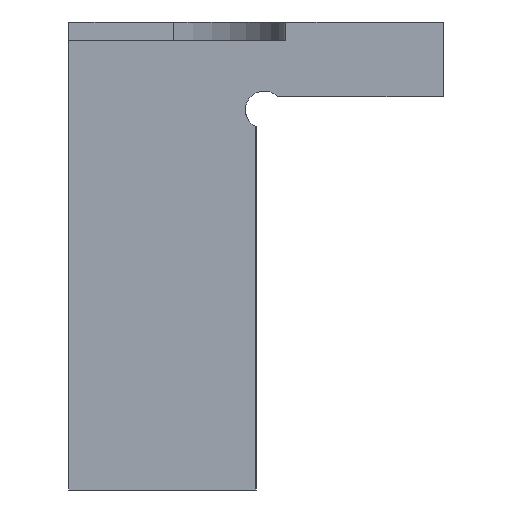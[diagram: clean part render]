
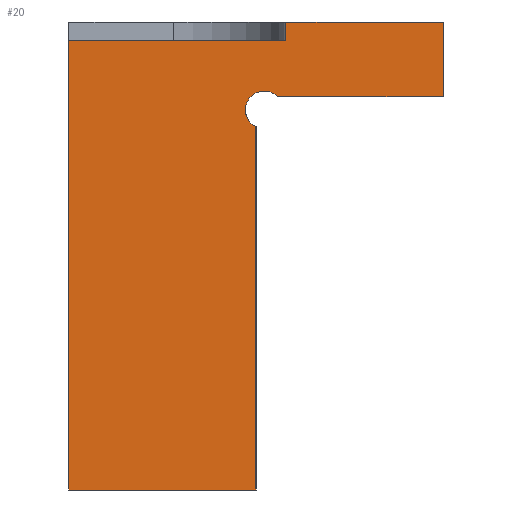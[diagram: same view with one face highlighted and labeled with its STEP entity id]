
A CAD part, front view. The second image highlights one B-rep face of the part: STEP entity #20.
In plain terms, the highlighted planar face has unit normal (0, -1, 0).
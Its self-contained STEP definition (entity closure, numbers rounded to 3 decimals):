
#11 = CARTESIAN_POINT ( 'NONE',  ( -29.9, -21.9, 0. ) ) ;
#14 = VECTOR ( 'NONE', #122, 1000. ) ;
#20 = ADVANCED_FACE ( 'NONE', ( #479 ), #581, .T. ) ;
#25 = CARTESIAN_POINT ( 'NONE',  ( -29.1, -21.9, -0.5 ) ) ;
#35 = VECTOR ( 'NONE', #650, 1000. ) ;
#51 = DIRECTION ( 'NONE',  ( 0., 0., 1. ) ) ;
#52 = EDGE_CURVE ( 'NONE', #168, #421, #645, .T. ) ;
#61 = ORIENTED_EDGE ( 'NONE', *, *, #689, .T. ) ;
#63 = ORIENTED_EDGE ( 'NONE', *, *, #647, .F. ) ;
#72 = ORIENTED_EDGE ( 'NONE', *, *, #103, .F. ) ;
#80 = VECTOR ( 'NONE', #489, 1000. ) ;
#103 = EDGE_CURVE ( 'NONE', #193, #168, #905, .T. ) ;
#122 = DIRECTION ( 'NONE',  ( 1., 0., 0. ) ) ;
#127 = LINE ( 'NONE', #281, #301 ) ;
#130 = VERTEX_POINT ( 'NONE', #978 ) ;
#147 = CARTESIAN_POINT ( 'NONE',  ( -29.1, -21.9, 0. ) ) ;
#155 = CARTESIAN_POINT ( 'NONE',  ( -29.9, -21.9, -2.797 ) ) ;
#168 = VERTEX_POINT ( 'NONE', #436 ) ;
#182 = ORIENTED_EDGE ( 'NONE', *, *, #220, .F. ) ;
#193 = VERTEX_POINT ( 'NONE', #596 ) ;
#205 = EDGE_CURVE ( 'NONE', #669, #940, #599, .T. ) ;
#207 = DIRECTION ( 'NONE',  ( 0., -1., 0. ) ) ;
#220 = EDGE_CURVE ( 'NONE', #736, #356, #821, .T. ) ;
#227 = ORIENTED_EDGE ( 'NONE', *, *, #582, .F. ) ;
#235 = LINE ( 'NONE', #697, #721 ) ;
#246 = EDGE_LOOP ( 'NONE', ( #227, #898, #72, #362, #957, #182, #63, #61, #287 ) ) ;
#260 = VECTOR ( 'NONE', #51, 1000. ) ;
#281 = CARTESIAN_POINT ( 'NONE',  ( -29.1, -21.9, -0.5 ) ) ;
#287 = ORIENTED_EDGE ( 'NONE', *, *, #205, .F. ) ;
#301 = VECTOR ( 'NONE', #435, 1000. ) ;
#309 = LINE ( 'NONE', #773, #464 ) ;
#313 = DIRECTION ( 'NONE',  ( -1., 0., 0. ) ) ;
#326 = LINE ( 'NONE', #11, #35 ) ;
#345 = DIRECTION ( 'NONE',  ( 0., -1., 0. ) ) ;
#349 = VERTEX_POINT ( 'NONE', #844 ) ;
#356 = VERTEX_POINT ( 'NONE', #155 ) ;
#362 = ORIENTED_EDGE ( 'NONE', *, *, #956, .F. ) ;
#366 = AXIS2_PLACEMENT_3D ( 'NONE', #370, #207, #513 ) ;
#370 = CARTESIAN_POINT ( 'NONE',  ( -29.684, -21.9, -2.346 ) ) ;
#421 = VERTEX_POINT ( 'NONE', #25 ) ;
#435 = DIRECTION ( 'NONE',  ( 0., 0., 1. ) ) ;
#436 = CARTESIAN_POINT ( 'NONE',  ( -34.9, -21.9, -0.5 ) ) ;
#450 = LINE ( 'NONE', #616, #890 ) ;
#464 = VECTOR ( 'NONE', #854, 1000. ) ;
#475 = CARTESIAN_POINT ( 'NONE',  ( -24.9, -21.9, 0. ) ) ;
#479 = FACE_OUTER_BOUND ( 'NONE', #246, .T. ) ;
#489 = DIRECTION ( 'NONE',  ( 1., 0., 0. ) ) ;
#510 = CARTESIAN_POINT ( 'NONE',  ( -24.9, -21.9, 0. ) ) ;
#513 = DIRECTION ( 'NONE',  ( 1., 0., 0. ) ) ;
#581 = PLANE ( 'NONE',  #694 ) ;
#582 = EDGE_CURVE ( 'NONE', #421, #669, #127, .T. ) ;
#596 = CARTESIAN_POINT ( 'NONE',  ( -34.9, -21.9, -12.5 ) ) ;
#599 = LINE ( 'NONE', #510, #14 ) ;
#616 = CARTESIAN_POINT ( 'NONE',  ( 0., -21.9, -2. ) ) ;
#645 = LINE ( 'NONE', #720, #80 ) ;
#647 = EDGE_CURVE ( 'NONE', #130, #736, #450, .T. ) ;
#650 = DIRECTION ( 'NONE',  ( 0., 0., -1. ) ) ;
#669 = VERTEX_POINT ( 'NONE', #147 ) ;
#689 = EDGE_CURVE ( 'NONE', #130, #940, #309, .T. ) ;
#694 = AXIS2_PLACEMENT_3D ( 'NONE', #867, #345, #805 ) ;
#697 = CARTESIAN_POINT ( 'NONE',  ( -29.9, -21.9, -12.5 ) ) ;
#720 = CARTESIAN_POINT ( 'NONE',  ( -29.1, -21.9, -0.5 ) ) ;
#721 = VECTOR ( 'NONE', #782, 1000. ) ;
#736 = VERTEX_POINT ( 'NONE', #923 ) ;
#773 = CARTESIAN_POINT ( 'NONE',  ( -24.9, -21.9, -10. ) ) ;
#782 = DIRECTION ( 'NONE',  ( -1., 0., 0. ) ) ;
#805 = DIRECTION ( 'NONE',  ( 1., 0., 0. ) ) ;
#821 = CIRCLE ( 'NONE', #366, 0.5 ) ;
#829 = EDGE_CURVE ( 'NONE', #356, #349, #326, .T. ) ;
#833 = CARTESIAN_POINT ( 'NONE',  ( -34.9, -21.9, -10. ) ) ;
#844 = CARTESIAN_POINT ( 'NONE',  ( -29.9, -21.9, -12.5 ) ) ;
#854 = DIRECTION ( 'NONE',  ( 0., 0., 1. ) ) ;
#867 = CARTESIAN_POINT ( 'NONE',  ( -24.9, -21.9, -10. ) ) ;
#890 = VECTOR ( 'NONE', #313, 1000. ) ;
#898 = ORIENTED_EDGE ( 'NONE', *, *, #52, .F. ) ;
#905 = LINE ( 'NONE', #833, #260 ) ;
#923 = CARTESIAN_POINT ( 'NONE',  ( -29.323, -21.9, -2. ) ) ;
#940 = VERTEX_POINT ( 'NONE', #475 ) ;
#956 = EDGE_CURVE ( 'NONE', #349, #193, #235, .T. ) ;
#957 = ORIENTED_EDGE ( 'NONE', *, *, #829, .F. ) ;
#978 = CARTESIAN_POINT ( 'NONE',  ( -24.9, -21.9, -2. ) ) ;
